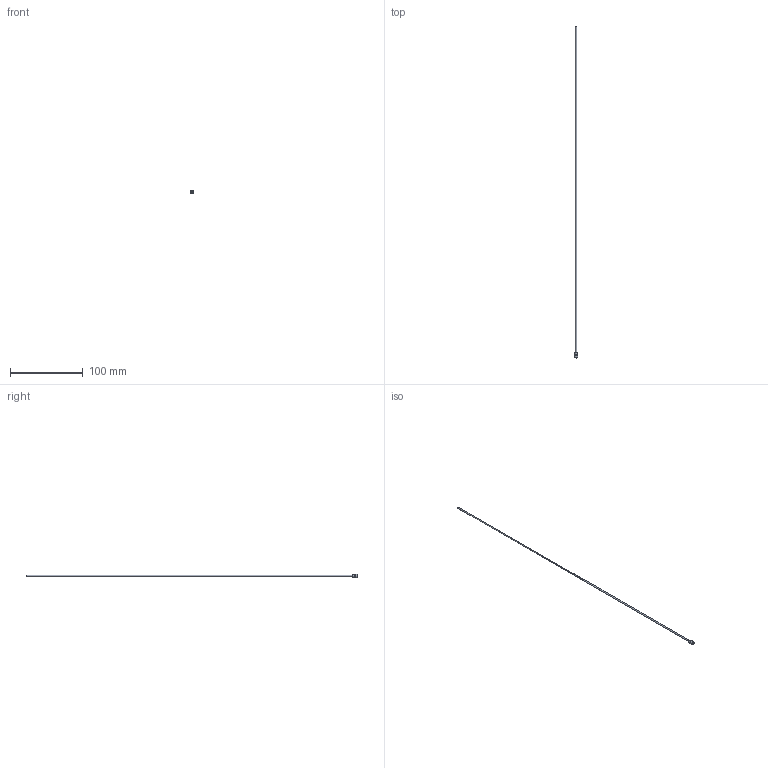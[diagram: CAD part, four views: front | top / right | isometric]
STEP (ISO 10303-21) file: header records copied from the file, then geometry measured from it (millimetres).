
FILE_DESCRIPTION(/* description */ (''),/* implementation_level */ '2;1');
FILE_NAME(/* name */ 'C:/Users/drich/Desktop/R072T-18 v1.step',/* time_stamp */ '2019-12-30T13:10:15-06:00',/* author */ (''),/* organization */ (''),/* preprocessor_version */ 'ST-DEVELOPER v18',/* originating_system */ 'Autodesk Translation Framework v8.12.0.6',/* authorisation */ '');
FILE_SCHEMA (('AUTOMOTIVE_DESIGN { 1 0 10303 214 3 1 1 }'));
Length unit declared in the file: inch
Products named in the file (1): R072T-18
Bounding box: 4.62 x 457.2 x 4.62 mm (x, y, z)
Volume: 417.3 mm3; surface area: 4912 mm2
Topology: 1 solids, 1 shells, 19 faces, 47 edges, 33 vertices
Faces by surface type: plane 11, cylinder 4, torus 3, cone 1
Full cylindrical faces by diameter (mm): 1.524 x1, 1.829 x1, 3.096 x1, 4.623 x1
Entity records: 624 total; most frequent: DIRECTION 111, CARTESIAN_POINT 100, ORIENTED_EDGE 94, EDGE_CURVE 47, AXIS2_PLACEMENT_3D 44, VERTEX_POINT 33, EDGE_LOOP 24, CIRCLE 24
